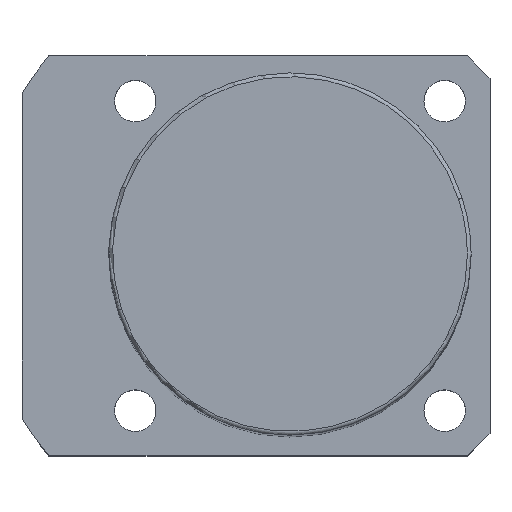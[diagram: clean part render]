
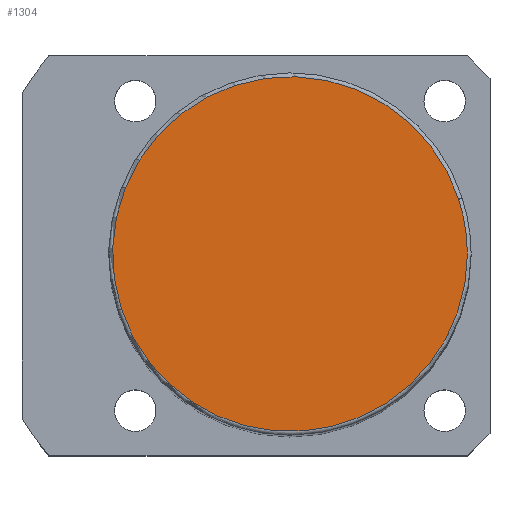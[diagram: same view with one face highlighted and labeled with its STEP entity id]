
A CAD part, top view. The second image highlights one B-rep face of the part: STEP entity #1304.
In plain terms, the highlighted planar face has unit normal (0, 0, 1).
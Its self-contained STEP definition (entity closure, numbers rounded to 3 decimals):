
#1270=CARTESIAN_POINT('',(23.5,0.0,149.0));
#1271=VERTEX_POINT('',#1270);
#1272=CARTESIAN_POINT('',(22.35,7.262,149.0));
#1273=VERTEX_POINT('',#1272);
#1274=CARTESIAN_POINT('',(0.0,0.0,149.0));
#1275=DIRECTION('',(0.0,0.0,1.0));
#1276=DIRECTION('',(1.0,0.0,0.0));
#1277=AXIS2_PLACEMENT_3D('',#1274,#1275,#1276);
#1278=CIRCLE('',#1277,23.5);
#1279=EDGE_CURVE('no 1814',#1271,#1273,#1278,.T.);
#1280=ORIENTED_EDGE('',*,*,#1279,.T.);
#1281=CARTESIAN_POINT('',(-22.35,-7.262,149.0));
#1282=VERTEX_POINT('',#1281);
#1283=CARTESIAN_POINT('',(0.0,0.0,149.0));
#1284=DIRECTION('',(0.0,0.0,1.0));
#1285=DIRECTION('',(1.0,0.0,0.0));
#1286=AXIS2_PLACEMENT_3D('',#1283,#1284,#1285);
#1287=CIRCLE('',#1286,23.5);
#1288=EDGE_CURVE('no 1820',#1273,#1282,#1287,.T.);
#1289=ORIENTED_EDGE('',*,*,#1288,.T.);
#1290=CARTESIAN_POINT('',(0.0,0.0,149.0));
#1291=DIRECTION('',(0.0,0.0,1.0));
#1292=DIRECTION('',(1.0,0.0,0.0));
#1293=AXIS2_PLACEMENT_3D('',#1290,#1291,#1292);
#1294=CIRCLE('',#1293,23.5);
#1295=EDGE_CURVE('no 1824',#1282,#1271,#1294,.T.);
#1296=ORIENTED_EDGE('',*,*,#1295,.T.);
#1297=EDGE_LOOP('',(#1280,#1289,#1296));
#1298=FACE_OUTER_BOUND('',#1297,.T.);
#1299=CARTESIAN_POINT('',(0.0,0.0,149.0));
#1300=DIRECTION('',(0.0,0.0,1.0));
#1301=DIRECTION('',(1.0,0.0,0.0));
#1302=AXIS2_PLACEMENT_3D('',#1299,#1300,#1301);
#1303=PLANE('',#1302);
#1304=ADVANCED_FACE('no 1805',(#1298),#1303,.T.);
